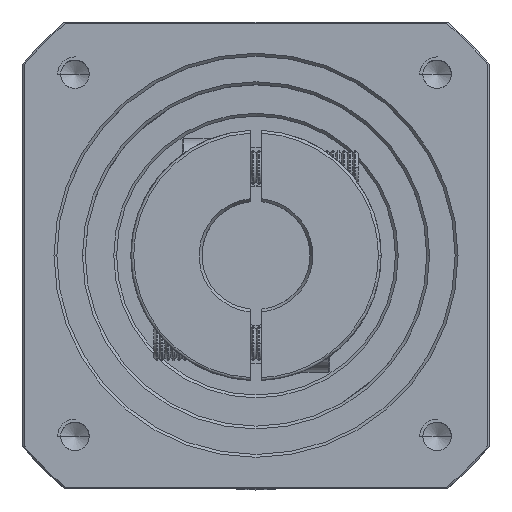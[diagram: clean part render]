
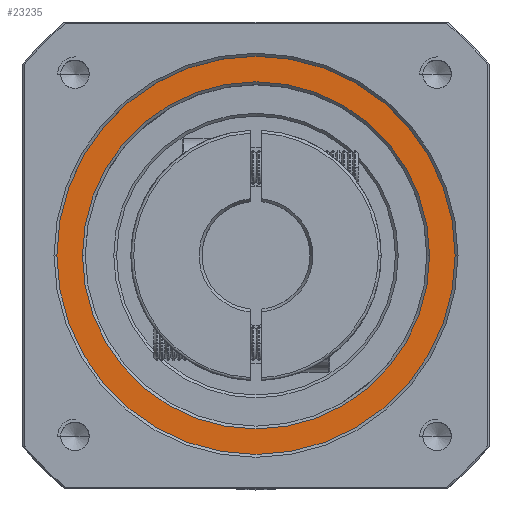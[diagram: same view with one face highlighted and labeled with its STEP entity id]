
A CAD part, top view. The second image highlights one B-rep face of the part: STEP entity #23235.
In plain terms, the highlighted planar face has unit normal (0, 0, 1).
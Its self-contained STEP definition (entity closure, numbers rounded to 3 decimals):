
#38 = VERTEX_POINT ( 'NONE', #103483 ) ;
#1852 = CARTESIAN_POINT ( 'NONE',  ( -117.242, 36.434, 43.304 ) ) ;
#6820 = CARTESIAN_POINT ( 'NONE',  ( -86.742, 36.434, 43.304 ) ) ;
#7605 = FACE_OUTER_BOUND ( 'NONE', #64268, .T. ) ;
#13142 = CARTESIAN_POINT ( 'NONE',  ( -86.742, 36.434, 43.304 ) ) ;
#13388 = ORIENTED_EDGE ( 'NONE', *, *, #45948, .T. ) ;
#13818 = VERTEX_POINT ( 'NONE', #20589 ) ;
#16237 = DIRECTION ( 'NONE',  ( 1., 0., 0. ) ) ;
#17417 = CARTESIAN_POINT ( 'NONE',  ( -86.742, 36.434, 43.304 ) ) ;
#20106 = EDGE_CURVE ( 'NONE', #115476, #38, #39688, .T. ) ;
#20589 = CARTESIAN_POINT ( 'NONE',  ( -56.242, 36.434, 43.304 ) ) ;
#21425 = DIRECTION ( 'NONE',  ( 0., 0., -1. ) ) ;
#22521 = DIRECTION ( 'NONE',  ( 1., 0., 0. ) ) ;
#23235 = ADVANCED_FACE ( 'NONE', ( #7605, #103846 ), #40865, .T. ) ;
#26774 = DIRECTION ( 'NONE',  ( 1., 0., 0. ) ) ;
#30908 = AXIS2_PLACEMENT_3D ( 'NONE', #77192, #21425, #86531 ) ;
#39688 = CIRCLE ( 'NONE', #92808, 35. ) ;
#40865 = PLANE ( 'NONE',  #52706 ) ;
#41462 = EDGE_CURVE ( 'NONE', #38, #115476, #101862, .T. ) ;
#45948 = EDGE_CURVE ( 'NONE', #13818, #117843, #70452, .T. ) ;
#48022 = DIRECTION ( 'NONE',  ( 0., 0., 1. ) ) ;
#52706 = AXIS2_PLACEMENT_3D ( 'NONE', #13142, #78315, #22521 ) ;
#54878 = CARTESIAN_POINT ( 'NONE',  ( -51.742, 36.434, 43.304 ) ) ;
#64268 = EDGE_LOOP ( 'NONE', ( #118396, #116921 ) ) ;
#70452 = CIRCLE ( 'NONE', #74321, 30.5 ) ;
#72044 = DIRECTION ( 'NONE',  ( 0., 0., -1. ) ) ;
#74321 = AXIS2_PLACEMENT_3D ( 'NONE', #6820, #72044, #16237 ) ;
#76035 = ORIENTED_EDGE ( 'NONE', *, *, #108555, .T. ) ;
#77192 = CARTESIAN_POINT ( 'NONE',  ( -86.742, 36.434, 43.304 ) ) ;
#78315 = DIRECTION ( 'NONE',  ( 0., 0., 1. ) ) ;
#81286 = EDGE_LOOP ( 'NONE', ( #13388, #76035 ) ) ;
#82601 = DIRECTION ( 'NONE',  ( 0., 0., 1. ) ) ;
#86531 = DIRECTION ( 'NONE',  ( 1., 0., 0. ) ) ;
#92808 = AXIS2_PLACEMENT_3D ( 'NONE', #17417, #82601, #26774 ) ;
#101862 = CIRCLE ( 'NONE', #105740, 35. ) ;
#103483 = CARTESIAN_POINT ( 'NONE',  ( -121.742, 36.434, 43.304 ) ) ;
#103824 = CARTESIAN_POINT ( 'NONE',  ( -86.742, 36.434, 43.304 ) ) ;
#103846 = FACE_BOUND ( 'NONE', #81286, .T. ) ;
#105740 = AXIS2_PLACEMENT_3D ( 'NONE', #103824, #48022, #113191 ) ;
#108555 = EDGE_CURVE ( 'NONE', #117843, #13818, #108577, .T. ) ;
#108577 = CIRCLE ( 'NONE', #30908, 30.5 ) ;
#113191 = DIRECTION ( 'NONE',  ( 1., 0., 0. ) ) ;
#115476 = VERTEX_POINT ( 'NONE', #54878 ) ;
#116921 = ORIENTED_EDGE ( 'NONE', *, *, #41462, .T. ) ;
#117843 = VERTEX_POINT ( 'NONE', #1852 ) ;
#118396 = ORIENTED_EDGE ( 'NONE', *, *, #20106, .T. ) ;
